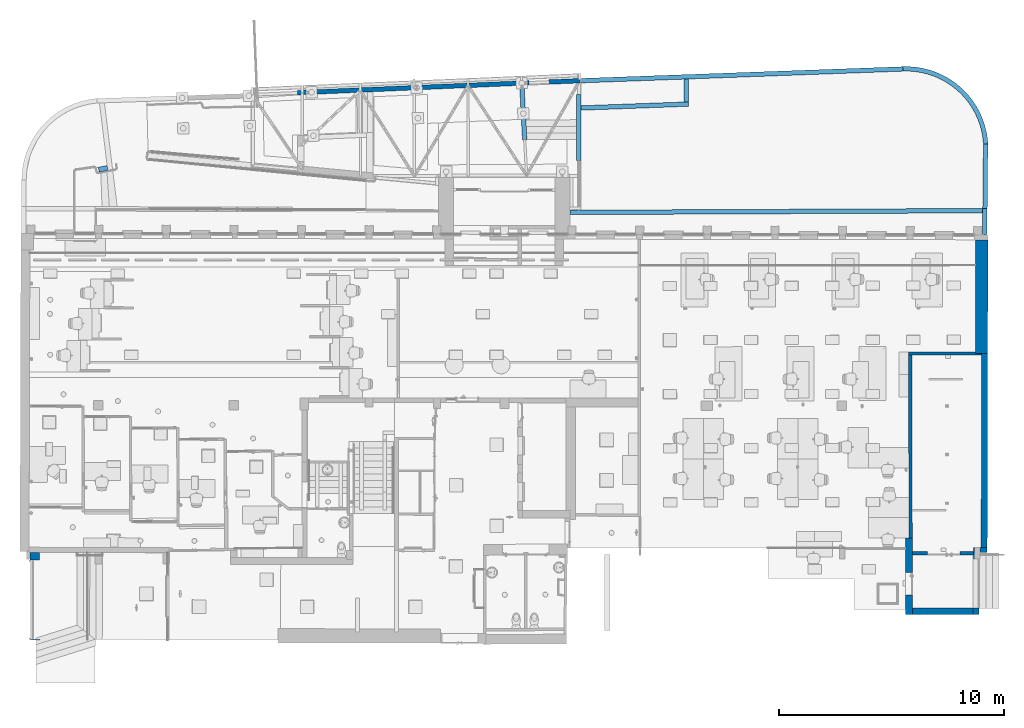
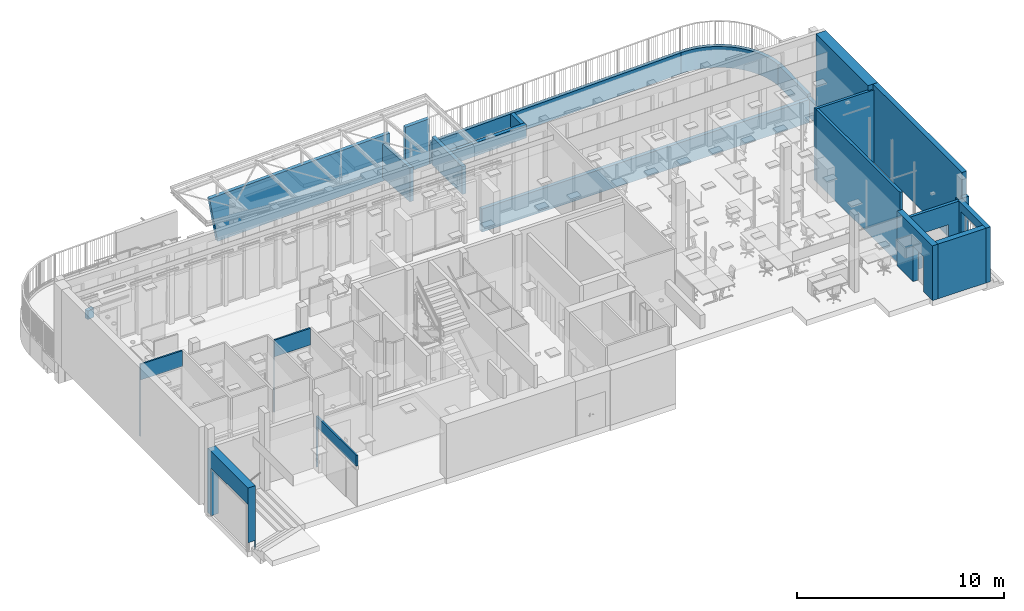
# One storey, part 32 of 128: 25 walls, 5 openings.
"""IFC2X3 building model written with IfcOpenShell, lengths in metres."""

from ifc_helpers import new_model, entity, si_unit, converted_unit, derived_unit, direction, frame, frame_2d, origin, origin_2d_with_axis, place, context, subcontext, project, spatial, polyline, circle_curve, parameter, trimmed, segment, composite_curve, rectangle, outline, extrude, clip, halfspace, faceted_brep, material, layer, layer_set, layer_usage, type_object, element, save


model = new_model("IFC2X3")

# Units and contexts
model_context = context("Model", 3, precision=1e-05, world=origin(), true_north=direction((6.123031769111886e-17, 1.0)))
body_context = subcontext(model_context, "Body", "Model", "MODEL_VIEW")
ifc_project = project(units=[si_unit("LENGTHUNIT", "METRE"), si_unit("AREAUNIT", "SQUARE_METRE"), converted_unit("PLANEANGLEUNIT", "DEGREE", entity("IfcPlaneAngleMeasure", 0.017453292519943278), si_unit("PLANEANGLEUNIT", "RADIAN"), dimensions=[0, 0, 0, 0, 0, 0, 0]), derived_unit("THERMALTRANSMITTANCEUNIT", [(si_unit("MASSUNIT", "GRAM", prefix="KILO"), 1), (si_unit("THERMODYNAMICTEMPERATUREUNIT", "KELVIN"), -1), (si_unit("TIMEUNIT", "SECOND"), -3)])], contexts=[model_context])

# Site, building, storey
site_placement = place(None, origin())
site = spatial("IfcSite", under=ifc_project, at=site_placement, Name="Default", CompositionType="ELEMENT")
building_placement = place(site_placement, origin())
building = spatial("IfcBuilding", under=site, at=building_placement, CompositionType="ELEMENT")
storey_placement = place(building_placement, origin())
storey = spatial("IfcBuildingStorey", under=building, at=storey_placement, Name="00_RDC CAF", CompositionType="ELEMENT", Elevation=2.4982504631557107e-13)

# Wall
ifc_material_1 = material(Name="STR - Beton Mur")
ifc_layer_1 = layer(ifc_material_1, 0.55)
ifc_layer_set_1 = layer_set([ifc_layer_1], Name="Mur de base:M_Ext_Beton_550mm")
ifc_layer_usage_1 = layer_usage(ifc_layer_set_1, "AXIS2", "NEGATIVE", 0.275)
wall_type_1 = type_object("IfcWallType", Name="Mur de base:M_Ext_Beton_550mm", PredefinedType="STANDARD", material=ifc_layer_set_1)
wall_1_placement = place(storey_placement, frame((48.924814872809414, 143.8924038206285, 0.0), z_axis=(0.0, 0.0, 1.0), x_axis=(-0.0022057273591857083, -0.9999975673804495, 0.0)))
element("IfcWallStandardCase", 1, at=wall_1_placement, inside=storey, type_object=wall_type_1, material=ifc_layer_usage_1, Name="Mur de base:M_Ext_Beton_550mm", ObjectType="Mur de base:M_Ext_Beton_550mm", context=body_context, shape_type="SweptSolid", body=[
    extrude(outline(polyline([(5.045117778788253, -0.2749999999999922), (5.045117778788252, 0.2750000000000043), (0.0, 0.2750000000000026), (0.00034816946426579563, -0.2749999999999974), (4.970724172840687, -0.27499999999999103), (5.045117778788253, -0.2749999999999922)])), origin(), (0.0, 0.0, 1.0), 4.5779999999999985),
])

# Wall, opening
ifc_layer_2 = layer(ifc_material_1, 0.20999999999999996)
ifc_layer_set_2 = layer_set([ifc_layer_2], Name="Mur de base:M_Ext_Beton_210mm")
ifc_layer_usage_2 = layer_usage(ifc_layer_set_2, "AXIS2", "POSITIVE", -0.10499999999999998)
wall_type_2 = type_object("IfcWallType", Name="Mur de base:M_Ext_Beton_210mm", PredefinedType="STANDARD", material=ifc_layer_set_2)
wall_2_placement = place(storey_placement, frame((49.16969872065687, 130.13351874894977, 0.0), z_axis=(0.0, 0.0, 1.0), x_axis=(-1.0, 0.0, 0.0)))
wall_2 = element("IfcWallStandardCase", 2, at=wall_2_placement, inside=storey, type_object=wall_type_2, material=ifc_layer_usage_2, Name="Mur de base:M_Ext_Beton_210mm", ObjectType="Mur de base:M_Ext_Beton_210mm", context=body_context, shape_type="SweptSolid", body=[
    extrude(outline(polyline([(0.0, -0.10500000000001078), (0.61871278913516, -0.10500000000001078), (0.6191599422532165, 0.10499999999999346), (0.0004632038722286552, 0.10499999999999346), (0.0, -0.10500000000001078)])), origin(), (0.0, 0.0, 1.0), 3.230000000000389),
])
opening_1_placement = place(storey_placement, frame((49.16969872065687, 130.13351874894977, 0.0), z_axis=(0.0, 0.0, 1.0), x_axis=(-1.0, 0.0, 0.0)))
element("IfcOpeningElement", 3, at=opening_1_placement, cuts=wall_2, Name="Mur de base:M_Ext_Beton_210mm:1", ObjectType="Opening", context=body_context, shape_type="SweptSolid", body=[
    extrude(rectangle(XDim=3.2300000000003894, YDim=0.21000012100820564, at=frame_2d((0.0, -1.7333356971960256e-14), x_axis=(1.0, 0.0))), frame((0.5709918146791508, 0.0, 1.6150000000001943), z_axis=(-0.999999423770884, -0.001073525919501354, 0.0), x_axis=(0.0, 0.0, 1.0)), (0.0, 0.0, 1.0), 0.2500002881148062),
])

ifc_layer_3 = layer(ifc_material_1, 0.16499999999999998)
ifc_layer_set_3 = layer_set([ifc_layer_3], Name="Mur de base:M_Int_Beton_165mm")
ifc_layer_usage_3 = layer_usage(ifc_layer_set_3, "AXIS2", "POSITIVE", -0.08249999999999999)
wall_type_3 = type_object("IfcWallType", Name="Mur de base:M_Int_Beton_165mm", PredefinedType="STANDARD", material=ifc_layer_set_3)
wall_3_placement = place(storey_placement, frame((45.844054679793, 129.98613845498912, 0.0)))
wall_3 = element("IfcWallStandardCase", 4, at=wall_3_placement, inside=storey, type_object=wall_type_3, material=ifc_layer_usage_3, Name="Mur de base:M_Int_Beton_165mm", ObjectType="Mur de base:M_Int_Beton_165mm", context=body_context, shape_type="SweptSolid", body=[
    extrude(outline(polyline([(0.0, -0.08249999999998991), (2.706218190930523, -0.0824999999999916), (2.7064840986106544, 0.04238029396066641), (2.706569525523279, 0.08250000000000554), (0.0, 0.08250000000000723), (0.0, -0.08249999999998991)])), origin(), (0.0, 0.0, 1.0), 3.23000000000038),
])
opening_2_placement = place(wall_3_placement, frame((2.1157045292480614, 0.0824999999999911, 0.0)))
element("IfcOpeningElement", 5, at=opening_2_placement, cuts=wall_3, Name="P_Tunnel_Tierce:P_Int_Tierce_Pleine_1380x2000mm:1", ObjectType="Opening", context=body_context, shape_type="SweptSolid", body=[
    extrude(rectangle(XDim=2.0349999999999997, YDim=1.4499999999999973, at=frame_2d((1.0174999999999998, 0.7250000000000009), x_axis=(1.0, 0.0))), frame((0.0, 0.0, 0.0), z_axis=(0.0, -1.0, 0.0), x_axis=(0.0, 0.0, 1.0)), (0.0, 0.0, 1.0), 0.16499999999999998),
])

# Wall
ifc_material_2 = material(Name="ARC - Cloison")
ifc_layer_4 = layer(ifc_material_2, 0.1)
ifc_layer_set_4 = layer_set([ifc_layer_4], Name="Mur de base:Cl_Platre_100mm")
wall_type_4 = type_object("IfcWallType", Name="Mur de base:Cl_Platre_100mm", PredefinedType="STANDARD", material=ifc_layer_set_4)
wall_4_placement = place(storey_placement, frame((12.806391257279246, 126.14650691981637, 0.0), z_axis=(0.0, 0.0, 1.0), x_axis=(0.0, 1.0, 0.0)))
element("IfcWall", 6, at=wall_4_placement, inside=storey, type_object=wall_type_4, Name="Mur de base:Cl_Platre_100mm", ObjectType="Mur de base:Cl_Platre_100mm", context=body_context, shape_type="Brep", body=[
    faceted_brep([(3.8629361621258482, -0.04999999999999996, 3.030000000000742), (0.0, -0.05000000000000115, 3.030000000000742), (0.0, -0.05000000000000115, 2.4), (3.858899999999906, -0.04999999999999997, 2.4), (3.858899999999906, -0.04999999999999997, 0.0), (3.8629361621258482, -0.04999999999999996, 0.0), (0.0, 0.05000000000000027, 3.030000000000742), (3.8631657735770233, 0.049999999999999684, 3.030000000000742), (3.8631657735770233, 0.049999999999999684, 0.0), (3.858899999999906, 0.04999999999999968, 0.0), (3.858899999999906, 0.04999999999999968, 2.4), (0.0, 0.05000000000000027, 2.4)], [[[0, 1, 2, 3, 4, 5]], [[6, 7, 8, 9, 10, 11]], [[8, 5, 4, 9]], [[1, 0, 7, 6]], [[1, 6, 11, 2]], [[3, 10, 9, 4]], [[10, 3, 2, 11]], [[0, 5, 8, 7]]]),
])

# Wall, opening
ifc_layer_5 = layer(ifc_material_1, 0.29999999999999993)
ifc_layer_set_5 = layer_set([ifc_layer_5], Name="Mur de base:M_Int_Beton_300mm")
ifc_layer_usage_4 = layer_usage(ifc_layer_set_5, "AXIS2", "NEGATIVE", 0.14999999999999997)
wall_type_5 = type_object("IfcWallType", Name="Mur de base:M_Int_Beton_300mm", PredefinedType="STANDARD", material=ifc_layer_set_5)
wall_5_placement = place(storey_placement, frame((45.694054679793, 130.66658221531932, 0.0), z_axis=(0.0, 0.0, 1.0), x_axis=(0.0, -1.0, 0.0)))
wall_5 = element("IfcWallStandardCase", 7, at=wall_5_placement, inside=storey, type_object=wall_type_5, material=ifc_layer_usage_4, Name="Mur de base:M_Int_Beton_300mm", ObjectType="Mur de base:M_Int_Beton_300mm", context=body_context, shape_type="SweptSolid", body=[
    extrude(rectangle(XDim=3.39814285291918, YDim=0.30000000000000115, at=frame_2d((1.69907142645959, 2.0816681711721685e-16), x_axis=(-1.0, 0.0))), origin(), (0.0, 0.0, 1.0), 3.230000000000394),
])
opening_3_placement = place(wall_5_placement, frame((1.5443237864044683, -0.15000000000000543, 0.0)))
element("IfcOpeningElement", 8, at=opening_3_placement, cuts=wall_5, Name="P_Tunnel_Simple:P_Int_Simple_Pleine_930x2040mm:1", ObjectType="Opening", context=body_context, shape_type="SweptSolid", body=[
    extrude(rectangle(XDim=2.0727526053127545, YDim=0.9955052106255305, at=frame_2d((1.0363763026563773, 0.4977526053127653), x_axis=(1.0, 0.0))), frame((0.0, 0.0, 0.0), z_axis=(0.0, 1.0, 0.0), x_axis=(0.0, 0.0, 1.0)), (0.0, 0.0, 1.0), 0.29999999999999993),
])

# Walls
ifc_layer_usage_5 = layer_usage(ifc_layer_set_5, "AXIS2", "POSITIVE", -0.14999999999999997)
wall_6_placement = place(storey_placement, frame((48.54530052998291, 127.41843936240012, 0.0), z_axis=(0.0, 0.0, 1.0), x_axis=(-1.0, 0.0, 0.0)))
element("IfcWallStandardCase", 9, at=wall_6_placement, inside=storey, type_object=wall_type_5, material=ifc_layer_usage_5, Name="Mur de base:M_Int_Beton_300mm", ObjectType="Mur de base:M_Int_Beton_300mm", context=body_context, shape_type="SweptSolid", body=[
    extrude(outline(polyline([(2.7012458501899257, -0.15000000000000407), (2.701245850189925, 0.14999999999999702), (0.0006387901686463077, 0.15000000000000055), (0.0, -0.15000000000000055), (2.7012458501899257, -0.15000000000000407)])), origin(), (0.0, 0.0, 1.0), 3.230000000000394),
])
ifc_layer_6 = layer(ifc_material_1, 0.27)
ifc_layer_set_6 = layer_set([ifc_layer_6], Name="Mur de base:M_Ext_Beton_270mm")
ifc_layer_usage_6 = layer_usage(ifc_layer_set_6, "AXIS2", "NEGATIVE", 0.135)
wall_type_6 = type_object("IfcWallType", Name="Mur de base:M_Ext_Beton_270mm", PredefinedType="STANDARD", material=ifc_layer_set_6)
wall_7_placement = place(storey_placement, frame((49.05368705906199, 138.84729831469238, 0.0), z_axis=(0.0, 0.0, 1.0), x_axis=(-0.0022057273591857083, -0.9999975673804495, 0.0)))
element("IfcWallStandardCase", 10, at=wall_7_placement, inside=storey, type_object=wall_type_6, material=ifc_layer_usage_6, Name="Mur de base:M_Ext_Beton_270mm", ObjectType="Mur de base:M_Ext_Beton_270mm", context=body_context, shape_type="SweptSolid", body=[
    extrude(outline(polyline([(8.609098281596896, -0.1350000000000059), (8.608502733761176, 0.13499999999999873), (0.0, 0.1349999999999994), (0.0, -0.13499999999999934), (0.07529795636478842, -0.1350000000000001), (8.609098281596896, -0.1350000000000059)])), origin(), (0.0, 0.0, 1.0), 4.5779999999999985),
])

# Wall, opening
ifc_layer_7 = layer(ifc_material_1, 0.24999999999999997)
ifc_layer_set_7 = layer_set([ifc_layer_7], Name="Mur de base:M_Ext_Beton_250mm")
ifc_layer_usage_7 = layer_usage(ifc_layer_set_7, "AXIS2", "POSITIVE", -0.12499999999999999)
wall_type_7 = type_object("IfcWallType", Name="Mur de base:M_Ext_Beton_250mm", PredefinedType="STANDARD", material=ifc_layer_set_7)
wall_8_placement = place(storey_placement, frame((48.67553962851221, 130.02878491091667, 0.0), z_axis=(0.0, 0.0, 1.0), x_axis=(-0.0021292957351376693, -0.9999977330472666, 0.0)))
wall_8 = element("IfcWallStandardCase", 11, at=wall_8_placement, inside=storey, type_object=wall_type_7, material=ifc_layer_usage_7, Name="Mur de base:M_Ext_Beton_250mm", ObjectType="Mur de base:M_Ext_Beton_250mm", context=body_context, shape_type="SweptSolid", body=[
    extrude(outline(polyline([(0.0005323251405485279, -0.1250000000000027), (2.7606179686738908, -0.12499999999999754), (2.7600856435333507, 0.12500000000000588), (0.0, 0.12500000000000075), (0.0004295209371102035, -0.07671926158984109), (0.0005323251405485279, -0.1250000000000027)])), origin(), (0.0, 0.0, 1.0), 3.230000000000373),
])
opening_4_placement = place(wall_8_placement, frame((0.0, 0.0, 0.0), z_axis=(0.0, 0.0, 1.0), x_axis=(0.9999977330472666, 0.0021292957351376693, 0.0)))
element("IfcOpeningElement", 12, at=opening_4_placement, cuts=wall_8, Name="Mur de base:M_Ext_Beton_250mm", ObjectType="Opening", context=body_context, shape_type="SweptSolid", body=[
    extrude(rectangle(XDim=2.7100000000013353, YDim=2.160000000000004, at=frame_2d((0.0, -8.659739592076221e-15), x_axis=(1.0, 0.0))), frame((1.3880169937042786, -0.27740000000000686, 1.3550000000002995), z_axis=(0.0, 1.0, 0.0), x_axis=(0.0, 0.0, 1.0)), (0.0, 0.0, 1.0), 0.5548000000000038),
])

# Walls
ifc_layer_8 = layer(ifc_material_1, 0.41999999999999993)
ifc_layer_set_8 = layer_set([ifc_layer_8], Name="Mur de base:M_Ext_Beton_420mm")
wall_type_8 = type_object("IfcWallType", Name="Mur de base:M_Ext_Beton_420mm", PredefinedType="STANDARD", material=ifc_layer_set_8)
wall_9_placement = place(storey_placement, frame((6.922590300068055, 130.02389476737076, -0.5500000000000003), z_axis=(0.0, 0.0, 1.0), x_axis=(0.0016419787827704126, -0.9999986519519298, 0.0)))
element("IfcWall", 13, at=wall_9_placement, inside=storey, type_object=wall_type_8, Name="Mur de base:M_Ext_Beton_420mm", ObjectType="Mur de base:M_Ext_Beton_420mm", context=body_context, shape_type="Brep", body=[
    faceted_brep([(3.8826802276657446, -0.21000000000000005, 0.5499999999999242), (3.8826802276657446, -0.21000000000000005, 3.7800000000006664), (0.29839860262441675, -0.2100000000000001, 3.7800000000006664), (0.0, -0.2099999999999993, 3.7800000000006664), (0.0, -0.2099999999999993, 0.0), (0.2983986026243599, -0.21, 0.0), (0.33768022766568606, -0.20999999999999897, 0.0), (0.33768022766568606, -0.20999999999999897, 2.7949999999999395), (3.8576802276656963, -0.2100000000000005, 2.7949999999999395), (3.8576802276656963, -0.2100000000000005, 0.5499999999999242), (3.8826802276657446, 0.20999999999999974, 3.7800000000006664), (3.8826802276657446, 0.20999999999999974, 0.5499999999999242), (3.8579396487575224, 0.2100000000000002, 0.5499999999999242), (3.8579396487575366, 0.21000000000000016, 0.0), (3.8576802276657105, 0.20999999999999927, 0.0), (3.857680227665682, 0.20999999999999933, 2.7949999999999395), (0.3376802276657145, 0.2099999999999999, 2.7949999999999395), (0.3376802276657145, 0.2099999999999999, 0.0), (0.0016540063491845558, 0.20999999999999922, 0.0), (0.0016540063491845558, 0.20999999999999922, 3.7800000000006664), (3.8576802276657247, 0.16045384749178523, 0.5499999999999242), (3.8576802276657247, 0.16045384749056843, 0.0)], [[[0, 1, 2, 3, 4, 5, 6, 7, 8, 9]], [[10, 11, 12, 13, 14, 15, 16, 17, 18, 19]], [[1, 0, 11, 10]], [[3, 2, 1, 10, 19]], [[4, 3, 19, 18]], [[11, 0, 9, 20, 12]], [[14, 13, 21]], [[15, 8, 7, 16]], [[16, 7, 6, 17]], [[8, 15, 14, 21, 20, 9]], [[13, 12, 20, 21]], [[4, 18, 17, 6, 5]]]),
])
ifc_layer_9 = layer(ifc_material_2, 0.09)
ifc_layer_set_9 = layer_set([ifc_layer_9], Name="Mur de base:Cl_Platre_90mm")
wall_type_9 = type_object("IfcWallType", Name="Mur de base:Cl_Platre_90mm", PredefinedType="STANDARD", material=ifc_layer_set_9)
wall_10_placement = place(storey_placement, frame((6.67936538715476, 136.50951766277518, 0.0), z_axis=(0.0, 0.0, 1.0), x_axis=(0.9999945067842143, -0.0033145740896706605, 0.0)))
element("IfcWall", 14, at=wall_10_placement, inside=storey, type_object=wall_type_9, Name="Mur de base:Cl_Platre_90mm", ObjectType="Mur de base:Cl_Platre_90mm", context=body_context, shape_type="Brep", body=[
    faceted_brep([(2.3290981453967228, -0.045000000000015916, 4.277999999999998), (3.744107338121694e-05, -0.044999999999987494, 4.277999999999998), (3.744107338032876e-05, -0.044999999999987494, 0.0), (0.010821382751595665, -0.044999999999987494, 0.0), (0.010821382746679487, -0.044999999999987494, 3.3499999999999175), (2.3290981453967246, -0.045000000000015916, 3.3499999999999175), (0.0, 0.045000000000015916, 4.277999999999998), (2.329098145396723, 0.045000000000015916, 4.277999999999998), (2.329098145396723, 0.045000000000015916, 3.3499999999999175), (0.010821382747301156, 0.045000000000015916, 3.3499999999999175), (0.010821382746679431, 0.045000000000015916, 0.0), (0.0, 0.045000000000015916, 0.0)], [[[0, 1, 2, 3, 4, 5]], [[6, 7, 8, 9, 10, 11]], [[2, 11, 10, 3]], [[7, 0, 5, 8]], [[1, 0, 7, 6]], [[9, 4, 3, 10]], [[4, 9, 8, 5]], [[2, 1, 6, 11]]]),
])
wall_11_placement = place(storey_placement, frame((13.311639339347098, 135.03222993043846, 0.0), z_axis=(0.0, 0.0, 1.0), x_axis=(0.9999841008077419, 0.005638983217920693, 0.0)))
element("IfcWall", 15, at=wall_11_placement, inside=storey, type_object=wall_type_9, Name="Mur de base:Cl_Platre_90mm", ObjectType="Mur de base:Cl_Platre_90mm", context=body_context, shape_type="Brep", body=[
    faceted_brep([(2.0021554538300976, -0.044999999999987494, 4.277999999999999), (0.0, -0.044999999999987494, 4.277999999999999), (0.0, -0.044999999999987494, 0.0), (0.0008538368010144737, -0.04499999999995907, 0.0), (0.0008538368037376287, -0.044999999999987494, 3.294999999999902), (2.0021554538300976, -0.044999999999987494, 3.2949999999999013), (0.00019733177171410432, 0.044999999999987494, 4.277999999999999), (2.0021554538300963, 0.045000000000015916, 4.277999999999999), (2.0021554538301, 0.045000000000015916, 3.294999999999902), (0.0008538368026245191, 0.044999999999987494, 3.294999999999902), (0.0008538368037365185, 0.044999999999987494, 0.0), (0.00019733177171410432, 0.044999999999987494, 0.0)], [[[0, 1, 2, 3, 4, 5]], [[6, 7, 8, 9, 10, 11]], [[2, 11, 10, 3]], [[7, 0, 5, 8]], [[1, 0, 7, 6]], [[9, 4, 3, 10]], [[4, 9, 8, 5]], [[2, 1, 6, 11]]]),
])
ifc_layer_10 = layer(ifc_material_1, 0.14999999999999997)
ifc_layer_set_10 = layer_set([ifc_layer_10], Name="Mur de base:M_Ext_Beton_150mm")
ifc_layer_usage_8 = layer_usage(ifc_layer_set_10, "AXIS2", "POSITIVE", -0.07499999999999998)
wall_type_10 = type_object("IfcWallType", Name="Mur de base:M_Ext_Beton_150mm", PredefinedType="STANDARD", material=ifc_layer_set_10)
wall_12_placement = place(storey_placement, frame((48.91852130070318, 138.84729831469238, 0.0), z_axis=(0.0, 0.0, 1.0), x_axis=(-1.0, 0.0, 0.0)))
element("IfcWallStandardCase", 16, at=wall_12_placement, inside=storey, type_object=wall_type_10, material=ifc_layer_usage_8, Name="Mur de base:M_Ext_Beton_150mm", ObjectType="Mur de base:M_Ext_Beton_150mm", context=body_context, shape_type="SweptSolid", body=[
    extrude(outline(polyline([(3.2381179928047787, -0.07499999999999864), (3.23786011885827, 0.07500000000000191), (3.0878598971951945, 0.07500000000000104), (0.0, 0.07500000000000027), (-0.0001660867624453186, -0.0002977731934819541), (0.27983391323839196, -0.0006065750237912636), (0.2796698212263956, -0.07499999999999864), (3.2381179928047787, -0.07499999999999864)])), origin(), (0.0, 0.0, 1.0), 4.278),
])
ifc_layer_usage_9 = layer_usage(ifc_layer_set_10, "AXIS2", "POSITIVE", -0.07499999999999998)
wall_13_placement = place(storey_placement, frame((45.755661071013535, 138.7724272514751, 0.0), z_axis=(0.0, 0.0, 1.0), x_axis=(0.001719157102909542, -0.9999985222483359, 0.0)))
element("IfcWallStandardCase", 17, at=wall_13_placement, inside=storey, type_object=wall_type_10, material=ifc_layer_usage_9, Name="Mur de base:M_Ext_Beton_150mm", ObjectType="Mur de base:M_Ext_Beton_150mm", context=body_context, shape_type="SweptSolid", body=[
    extrude(outline(polyline([(8.105727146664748, -0.07499999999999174), (8.10572714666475, 0.07500000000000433), (0.0002578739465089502, 0.07500000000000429), (0.0, -0.0749999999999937), (8.105727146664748, -0.07499999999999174)])), origin(), (0.0, 0.0, 1.0), 4.278),
])

# Wall, opening
ifc_layer_11 = layer(ifc_material_1, 0.2)
ifc_layer_set_11 = layer_set([ifc_layer_11], Name="Mur de base:M_Ext_Beton_200mm")
ifc_layer_usage_10 = layer_usage(ifc_layer_set_11, "AXIS2", "NEGATIVE", 0.1)
wall_type_11 = type_object("IfcWallType", Name="Mur de base:M_Ext_Beton_200mm", PredefinedType="STANDARD", material=ifc_layer_set_11)
wall_14_placement = place(storey_placement, frame((18.528953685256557, 150.41354374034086, -1.1960293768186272), z_axis=(0.0, 0.0, 1.0), x_axis=(0.9990706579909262, 0.04310244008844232, 0.0)))
wall_14 = element("IfcWallStandardCase", 18, at=wall_14_placement, inside=storey, type_object=wall_type_11, material=ifc_layer_usage_10, Name="Mur de base:M_Ext_Beton_200mm", ObjectType="Mur de base:M_Ext_Beton_200mm", context=body_context, shape_type="Clipping", body=[
    clip(extrude(rectangle(XDim=10.320086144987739, YDim=0.19999999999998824, at=frame_2d((5.1600430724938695, -1.9637069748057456e-15), x_axis=(-1.0, 0.0))), origin(), (0.0, 0.0, 1.0), 2.68602937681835), halfspace(frame((0.46111135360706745, -0.10000000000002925, 0.0), z_axis=(-0.9855825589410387, 0.0, -0.16919521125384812), x_axis=(0.0, 1.0, 0.0)), False)),
])
opening_5_placement = place(wall_14_placement, origin())
element("IfcOpeningElement", 19, at=opening_5_placement, cuts=wall_14, Name="Mur de base:M_Ext_Beton_200mm", ObjectType="Opening", context=body_context, shape_type="SweptSolid", body=[
    extrude(rectangle(XDim=2.1849999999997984, YDim=0.0012012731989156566, at=origin_2d_with_axis()), frame((10.319485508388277, 0.09999999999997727, 1.5935293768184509), z_axis=(0.0, -1.0, 0.0), x_axis=(0.0, 0.0, 1.0)), (0.0, 0.0, 1.0), 0.19999999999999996),
])

# Walls
ifc_layer_usage_11 = layer_usage(ifc_layer_set_11, "AXIS2", "NEGATIVE", 0.1)
wall_15_placement = place(storey_placement, frame((31.118886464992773, 150.95011503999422, -1.196), z_axis=(0.0, 0.0, 1.0), x_axis=(0.9993367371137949, 0.03641546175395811, 0.0)))
element("IfcWallStandardCase", 20, at=wall_15_placement, inside=storey, type_object=wall_type_11, material=ifc_layer_usage_11, Name="Mur de base:M_Ext_Beton_200mm", ObjectType="Mur de base:M_Ext_Beton_200mm", context=body_context, shape_type="SweptSolid", body=[
    extrude(outline(polyline([(14.31527794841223, -0.09999999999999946), (14.314725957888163, 0.10000000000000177), (0.0, 0.10000000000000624), (0.0, -0.09999999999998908), (14.31527794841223, -0.09999999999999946)])), origin(), (0.0, 0.0, 1.0), 1.241000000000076),
])
ifc_layer_usage_12 = layer_usage(ifc_layer_set_11, "AXIS2", "POSITIVE", -0.1)
wall_16_placement = place(storey_placement, frame((45.42411013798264, 151.47139054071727, -1.196000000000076)))
element("IfcWallStandardCase", 21, at=wall_16_placement, inside=storey, type_object=wall_type_11, material=ifc_layer_usage_12, Name="Mur de base:M_Ext_Beton_200mm", ObjectType="Mur de base:M_Ext_Beton_200mm", context=body_context, shape_type="SweptSolid", body=[
    extrude(outline(composite_curve([segment(trimmed(circle_curve(frame_2d((0.14843292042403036, -3.5301322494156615), x_axis=(1.0, 0.0)), 3.633251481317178), [parameter(3.327956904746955)], [parameter(92.39876614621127)], True, "PARAMETER"), True, "CONTINUOUS"), segment(polyline([(-0.0036336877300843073, 0.09993552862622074), (0.0042010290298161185, -0.09991171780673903)]), True, "CONTINUOUS"), segment(trimmed(circle_curve(frame_2d((0.14843292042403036, -3.5301322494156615), x_axis=(1.0, 0.0)), 3.4332514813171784), [parameter(3.4405462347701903)], [parameter(92.40772090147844)], True, "PARAMETER"), False, "CONTINUOUS"), segment(polyline([(3.5754963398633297, -3.324093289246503), (3.7755573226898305, -3.3192178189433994)]), True, "CONTINUOUS")], self_intersect=False)), origin(), (0.0, 0.0, 1.0), 1.241000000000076),
])
ifc_layer_usage_13 = layer_usage(ifc_layer_set_11, "AXIS2", "NEGATIVE", 0.1)
wall_17_placement = place(storey_placement, frame((49.09967278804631, 148.1532049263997, -1.196000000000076), z_axis=(0.0, 0.0, 1.0), x_axis=(-0.010322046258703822, -0.999946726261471, 0.0)))
element("IfcWallStandardCase", 22, at=wall_17_placement, inside=storey, type_object=wall_type_11, material=ifc_layer_usage_13, Name="Mur de base:M_Ext_Beton_200mm", ObjectType="Mur de base:M_Ext_Beton_200mm", context=body_context, shape_type="SweptSolid", body=[
    extrude(outline(polyline([(2.867910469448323, -0.09999999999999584), (2.8668782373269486, 0.10000000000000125), (0.0, 0.10000000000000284), (0.006940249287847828, -0.0999999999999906), (2.867910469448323, -0.09999999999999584)])), origin(), (0.0, 0.0, 1.0), 1.241000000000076),
])
ifc_layer_usage_14 = layer_usage(ifc_layer_set_11, "AXIS2", "NEGATIVE", 0.1)
wall_18_placement = place(storey_placement, frame((28.52507034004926, 150.74027680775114, -0.9960293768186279), z_axis=(0.0, 0.0, 1.0), x_axis=(0.052315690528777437, -0.998630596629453, 0.0)))
element("IfcWallStandardCase", 23, at=wall_18_placement, inside=storey, type_object=wall_type_11, material=ifc_layer_usage_14, Name="Mur de base:M_Ext_Beton_200mm", ObjectType="Mur de base:M_Ext_Beton_200mm", context=body_context, shape_type="SweptSolid", body=[
    extrude(rectangle(XDim=2.4150477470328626, YDim=0.19999999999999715, at=frame_2d((1.2075238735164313, -1.4502288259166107e-15), x_axis=(-1.0, 0.0))), origin(), (0.0, 0.0, 1.0), 1.996029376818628),
])
ifc_layer_usage_15 = layer_usage(ifc_layer_set_11, "AXIS2", "POSITIVE", -0.1)
wall_19_placement = place(storey_placement, frame((31.043976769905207, 150.3424244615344, -0.8450000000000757), z_axis=(0.0, 0.0, 1.0), x_axis=(0.0014095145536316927, -0.999999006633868, 0.0)))
element("IfcWallStandardCase", 24, at=wall_19_placement, inside=storey, type_object=wall_type_11, material=ifc_layer_usage_15, Name="Mur de base:M_Ext_Beton_200mm", ObjectType="Mur de base:M_Ext_Beton_200mm", context=body_context, shape_type="SweptSolid", body=[
    extrude(rectangle(XDim=2.9279443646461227, YDim=0.19999999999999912, at=frame_2d((1.4639721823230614, 9.922618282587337e-16), x_axis=(-1.0, 0.0))), origin(), (0.0, 0.0, 1.0), 1.6395003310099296),
])
ifc_layer_usage_16 = layer_usage(ifc_layer_set_11, "AXIS2", "NEGATIVE", 0.1)
wall_20_placement = place(storey_placement, frame((49.07007541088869, 145.2864794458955, -1.196000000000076), z_axis=(0.0, 0.0, 1.0), x_axis=(0.0, -1.0, 0.0)))
element("IfcWallStandardCase", 25, at=wall_20_placement, inside=storey, type_object=wall_type_11, material=ifc_layer_usage_16, Name="Mur de base:M_Ext_Beton_200mm", ObjectType="Mur de base:M_Ext_Beton_200mm", context=body_context, shape_type="SweptSolid", body=[
    extrude(outline(polyline([(1.1610322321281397, -0.0999999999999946), (1.1610322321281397, 0.10000000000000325), (0.0010322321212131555, 0.10000000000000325), (0.0, -0.0999999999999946), (1.1610322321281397, -0.0999999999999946)])), origin(), (0.0, 0.0, 1.0), 1.061928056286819),
])
ifc_layer_usage_17 = layer_usage(ifc_layer_set_11, "AXIS2", "POSITIVE", -0.1)
wall_21_placement = place(storey_placement, frame((48.9705025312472, 145.18381864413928, -1.500000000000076), z_axis=(0.0, 0.0, 1.0), x_axis=(-0.9999908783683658, -0.004271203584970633, 0.0)))
element("IfcWallStandardCase", 26, at=wall_21_placement, inside=storey, type_object=wall_type_11, material=ifc_layer_usage_17, Name="Mur de base:M_Ext_Beton_200mm", ObjectType="Mur de base:M_Ext_Beton_200mm", context=body_context, shape_type="SweptSolid", body=[
    extrude(outline(polyline([(18.31994461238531, -0.09999999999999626), (18.319944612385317, 0.10000000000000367), (0.0008542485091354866, 0.10000000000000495), (0.0, -0.09999999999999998), (18.31994461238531, -0.09999999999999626)])), origin(), (0.0, 0.0, 1.0), 1.3659999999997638),
])
ifc_layer_usage_18 = layer_usage(ifc_layer_set_11, "AXIS2", "POSITIVE", -0.1)
wall_22_placement = place(storey_placement, frame((31.14132787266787, 149.7386970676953, -0.6950000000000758), z_axis=(0.0, 0.0, 1.0), x_axis=(0.9993370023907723, 0.03640818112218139, 0.0)))
element("IfcWallStandardCase", 27, at=wall_22_placement, inside=storey, type_object=wall_type_11, material=ifc_layer_usage_18, Name="Mur de base:M_Ext_Beton_200mm", ObjectType="Mur de base:M_Ext_Beton_200mm", context=body_context, shape_type="SweptSolid", body=[
    extrude(outline(polyline([(4.780386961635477, -0.09999999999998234), (4.787673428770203, 0.10000000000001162), (0.007004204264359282, 0.10000000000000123), (0.0, -0.09999999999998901), (4.780386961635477, -0.09999999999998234)])), origin(), (0.0, 0.0, 1.0), 0.7703850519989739),
])
ifc_layer_usage_19 = layer_usage(ifc_layer_set_11, "AXIS2", "POSITIVE", -0.1)
wall_23_placement = place(storey_placement, frame((35.822186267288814, 150.00565478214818, -0.8000000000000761), z_axis=(0.0, 0.0, 1.0), x_axis=(0.0, 1.0, 0.0)))
element("IfcWallStandardCase", 28, at=wall_23_placement, inside=storey, type_object=wall_type_11, material=ifc_layer_usage_19, Name="Mur de base:M_Ext_Beton_200mm", ObjectType="Mur de base:M_Ext_Beton_200mm", context=body_context, shape_type="SweptSolid", body=[
    extrude(outline(polyline([(1.019424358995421, -0.10000000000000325), (1.0121364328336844, 0.09999999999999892), (0.0, 0.09999999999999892), (0.007286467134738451, -0.10000000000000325), (1.019424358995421, -0.10000000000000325)])), origin(), (0.0, 0.0, 1.0), 0.8753850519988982),
])
ifc_layer_usage_20 = layer_usage(ifc_layer_set_11, "AXIS2", "NEGATIVE", 0.1)
wall_24_placement = place(storey_placement, frame((29.738540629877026, 150.8927650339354, -1.196029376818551), z_axis=(0.0, 0.0, 1.0), x_axis=(0.9991393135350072, 0.041480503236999, 0.0)))
element("IfcWallStandardCase", 29, at=wall_24_placement, inside=storey, type_object=wall_type_11, material=ifc_layer_usage_20, Name="Mur de base:M_Ext_Beton_200mm", ObjectType="Mur de base:M_Ext_Beton_200mm", context=body_context, shape_type="SweptSolid", body=[
    extrude(rectangle(XDim=1.3725314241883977, YDim=0.19999999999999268, at=frame_2d((0.6862657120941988, 7.979727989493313e-16), x_axis=(-1.0, 0.0))), origin(), (0.0, 0.0, 1.0), 2.68602937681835),
])
ifc_layer_12 = layer(ifc_material_1, 0.22)
ifc_layer_set_12 = layer_set([ifc_layer_12], Name="Mur de base:M_Ext_Beton_220mm")
ifc_layer_usage_21 = layer_usage(ifc_layer_set_12, "AXIS2", "NEGATIVE", 0.11)
wall_type_12 = type_object("IfcWallType", Name="Mur de base:M_Ext_Beton_220mm", PredefinedType="STANDARD", material=ifc_layer_set_12)
wall_25_placement = place(storey_placement, frame((10.146983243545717, 147.07818772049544, -0.5035564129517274), z_axis=(0.0, 0.0, 1.0), x_axis=(-0.9816271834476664, -0.1908089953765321, 0.0)))
element("IfcWallStandardCase", 30, at=wall_25_placement, inside=storey, type_object=wall_type_12, material=ifc_layer_usage_21, Name="Mur de base:M_Ext_Beton_220mm", ObjectType="Mur de base:M_Ext_Beton_220mm", context=body_context, shape_type="SweptSolid", body=[
    extrude(outline(polyline([(0.39829217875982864, -0.1100000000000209), (0.3982921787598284, 0.10999999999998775), (0.015452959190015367, 0.10999999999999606), (0.0, -0.1100000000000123), (0.39829217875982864, -0.1100000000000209)])), origin(), (0.0, 0.0, 1.0), 0.5137435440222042),
])

save(model, "model.ifc")
